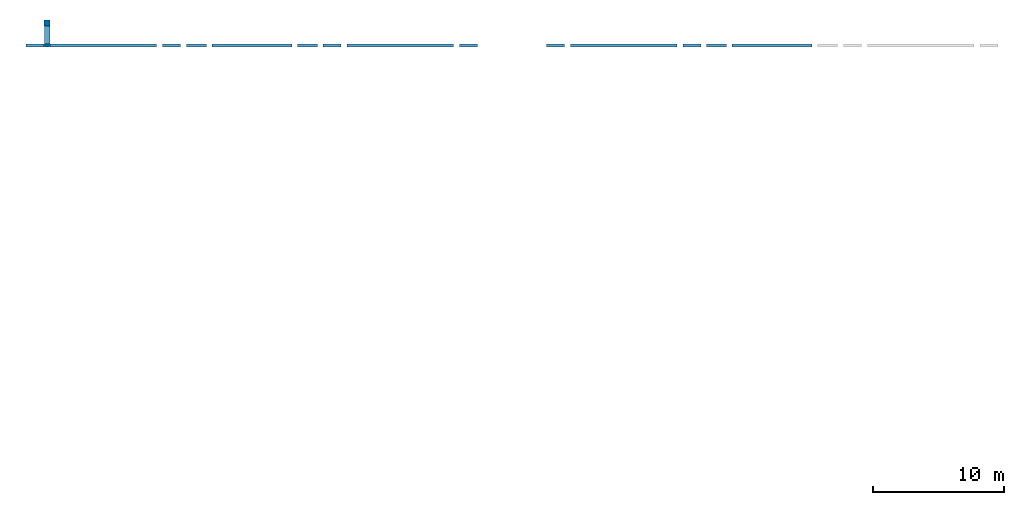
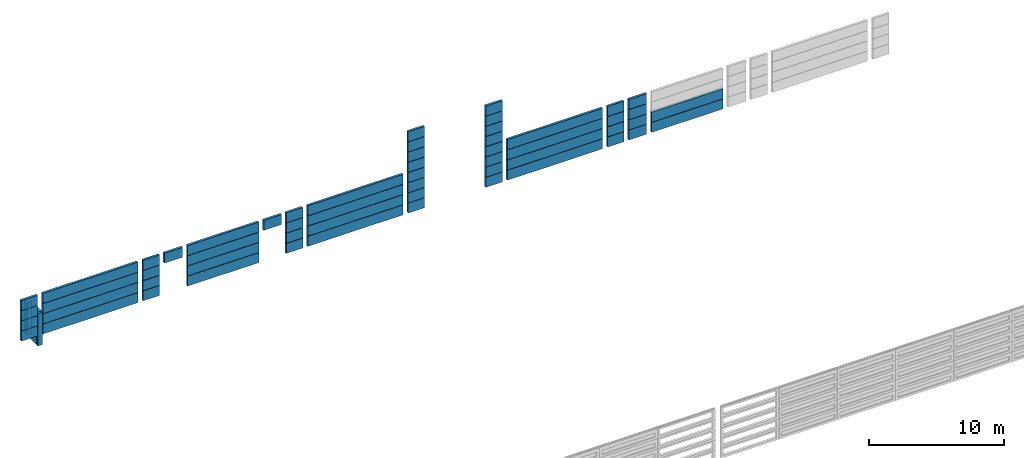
# One storey, part 1 of 3: 57 beams, 2 columns.
"""IFC2X3 building model written with IfcOpenShell, lengths in millimetres."""

from ifc_helpers import new_model, entity, si_unit, converted_unit, derived_unit, direction, frame, frame_2d, origin, origin_2d_with_axis, place, context, subcontext, project, spatial, polyline, rectangle, outline, extrude, source, transform, mapped, material, type_object, type_shapes, element, save


model = new_model("IFC2X3")

# Units and contexts
model_context = context("Model", 3, precision=0.01, world=origin(), true_north=direction((6.12303176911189e-17, 1.0)))
body_context = subcontext(model_context, "Body", "Model", "MODEL_VIEW")
ifc_project = project(units=[si_unit("LENGTHUNIT", "METRE", prefix="MILLI"), si_unit("AREAUNIT", "SQUARE_METRE"), si_unit("VOLUMEUNIT", "CUBIC_METRE"), converted_unit("PLANEANGLEUNIT", "DEGREE", entity("IfcRatioMeasure", 0.0174532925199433), si_unit("PLANEANGLEUNIT", "RADIAN"), dimensions=[0, 0, 0, 0, 0, 0, 0]), si_unit("MASSUNIT", "GRAM", prefix="KILO"), derived_unit("MASSDENSITYUNIT", [(si_unit("MASSUNIT", "GRAM", prefix="KILO"), 1), (si_unit("LENGTHUNIT", "METRE"), -3)]), derived_unit("MOMENTOFINERTIAUNIT", [(si_unit("LENGTHUNIT", "METRE"), 4)]), si_unit("TIMEUNIT", "SECOND"), si_unit("FREQUENCYUNIT", "HERTZ"), si_unit("THERMODYNAMICTEMPERATUREUNIT", "DEGREE_CELSIUS"), derived_unit("THERMALTRANSMITTANCEUNIT", [(si_unit("MASSUNIT", "GRAM", prefix="KILO"), 1), (si_unit("THERMODYNAMICTEMPERATUREUNIT", "KELVIN"), -1), (si_unit("TIMEUNIT", "SECOND"), -3)]), derived_unit("VOLUMETRICFLOWRATEUNIT", [(si_unit("LENGTHUNIT", "METRE"), 3), (si_unit("TIMEUNIT", "SECOND"), -1)]), si_unit("ELECTRICCURRENTUNIT", "AMPERE"), si_unit("ELECTRICVOLTAGEUNIT", "VOLT"), si_unit("POWERUNIT", "WATT"), si_unit("FORCEUNIT", "NEWTON", prefix="KILO"), si_unit("ILLUMINANCEUNIT", "LUX"), si_unit("LUMINOUSFLUXUNIT", "LUMEN"), si_unit("LUMINOUSINTENSITYUNIT", "CANDELA"), derived_unit("USERDEFINED", [(si_unit("MASSUNIT", "GRAM", prefix="KILO"), -1), (si_unit("LENGTHUNIT", "METRE"), -2), (si_unit("TIMEUNIT", "SECOND"), 3), (si_unit("LUMINOUSFLUXUNIT", "LUMEN"), 1)]), derived_unit("LINEARVELOCITYUNIT", [(si_unit("LENGTHUNIT", "METRE"), 1), (si_unit("TIMEUNIT", "SECOND"), -1)]), si_unit("PRESSUREUNIT", "PASCAL"), derived_unit("USERDEFINED", [(si_unit("LENGTHUNIT", "METRE"), -2), (si_unit("MASSUNIT", "GRAM", prefix="KILO"), 1), (si_unit("TIMEUNIT", "SECOND"), -2)]), derived_unit("LINEARFORCEUNIT", [(si_unit("MASSUNIT", "GRAM", prefix="KILO"), 1), (si_unit("LENGTHUNIT", "METRE"), 1), (si_unit("TIMEUNIT", "SECOND"), -2), (si_unit("LENGTHUNIT", "METRE"), -1)]), derived_unit("PLANARFORCEUNIT", [(si_unit("MASSUNIT", "GRAM", prefix="KILO"), 1), (si_unit("LENGTHUNIT", "METRE"), 1), (si_unit("TIMEUNIT", "SECOND"), -2), (si_unit("LENGTHUNIT", "METRE"), -2)])], contexts=[model_context])

# Site, building, storey
site_placement = place(None, frame((10627.5135316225, 21939.0796949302, 0.0)))
site = spatial("IfcSite", under=ifc_project, at=site_placement, Name="Default", CompositionType="ELEMENT")
building_placement = place(site_placement, origin())
building = spatial("IfcBuilding", under=site, at=building_placement, CompositionType="ELEMENT")
storey_placement = place(building_placement, frame((0.0, 0.0, 3660.0)))
storey = spatial("IfcBuildingStorey", under=building, at=storey_placement, Name="R+1", CompositionType="ELEMENT", Elevation=3660.0)

# Columns
ifc_material_1 = material(Name="Concrete - Precast Concrete - 35 MPa")
column_type_1 = type_object("IfcColumnType", Name="M_Precast-Rectangular Column:430X200", PredefinedType="COLUMN", material=ifc_material_1)
shared_shape_1 = source(origin(), body_context, "Body", "SweptSolid", [
    extrude(outline(polyline([(-75.0, -215.0), (75.0, -215.0), (100.0, -190.0), (100.0, 190.0), (75.0, 215.0), (-75.0, 215.0), (-100.0, 190.0), (-100.0, -190.0), (-75.0, -215.0)])), frame((0.0, 0.0, 2910.0), z_axis=(0.0, 0.0, 1.0), x_axis=(0.0, -1.0, 0.0)), (0.0, 0.0, 1.0), 2910.0),
])
type_shapes(column_type_1, [shared_shape_1])
column_1_placement = place(storey_placement, frame((-8797.51353162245, 16595.9203050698, -3660.0), z_axis=(0.0, 0.0, 1.0), x_axis=(-1.0, 0.0, 0.0)))
element("IfcColumn", 1, at=column_1_placement, inside=storey, type_object=column_type_1, material=ifc_material_1, Name="M_Precast-Rectangular Column:430X200", ObjectType="M_Precast-Rectangular Column:430X200", context=body_context, shape_type="MappedRepresentation", body=[
    mapped(shared_shape_1, transform((0.0, 0.0, 0.0), scale=1.0)),
])
ifc_material_2 = material(Name="Concrete, Precast Smooth, Light Grey")
column_type_2 = type_object("IfcColumnType", Name="M_Precast-Square Column:430x430", PredefinedType="COLUMN", material=ifc_material_2)
shared_shape_2 = source(origin(), body_context, "Body", "SweptSolid", [
    extrude(rectangle(XDim=430.0, YDim=430.0, at=origin_2d_with_axis()), frame((0.0, 0.0, 2910.0), z_axis=(0.0, 0.0, 1.0), x_axis=(0.0, -1.0, 0.0)), (0.0, 0.0, 1.0), 2910.0),
])
type_shapes(column_type_2, [shared_shape_2])
column_2_placement = place(storey_placement, frame((-8797.51353162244, 18310.9203050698, -3660.0), z_axis=(0.0, 0.0, 1.0), x_axis=(-1.0, 0.0, 0.0)))
element("IfcColumn", 2, at=column_2_placement, inside=storey, type_object=column_type_2, material=ifc_material_2, Name="M_Precast-Square Column:430x430", ObjectType="M_Precast-Square Column:430x430", context=body_context, shape_type="MappedRepresentation", body=[
    mapped(shared_shape_2, transform((0.0, 0.0, 0.0), scale=1.0)),
])

# Beams
beam_type_1 = type_object("IfcBeamType", Name="NBS_AndertonConcreteProductsLtd_PrcstConcPnls_BallastBoard300:PPT TYPE4", PredefinedType="NOTDEFINED")
beam_1_placement = place(storey_placement, origin())
element("IfcBeam", 3, at=beam_1_placement, inside=storey, type_object=beam_type_1, material=ifc_material_2, Name="NBS_AndertonConcreteProductsLtd_PrcstConcPnls_BallastBoard300:PPT TYPE4", ObjectType="NBS_AndertonConcreteProductsLtd_PrcstConcPnls_BallastBoard300:PPT TYPE4", context=body_context, shape_type="SweptSolid", body=[
    extrude(rectangle(XDim=898.300000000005, YDim=200.0, at=frame_2d((1.08713038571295e-12, 5.40012479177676e-13), x_axis=(0.0, 1.0))), frame((-8582.51353162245, 16595.9203050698, 635.750000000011), z_axis=(1.0, 0.0, 0.0), x_axis=(0.0, 1.0, 0.0)), (0.0, 0.0, 1.0), 8120.0),
])
beam_2_placement = place(storey_placement, origin())
element("IfcBeam", 4, at=beam_2_placement, inside=storey, type_object=beam_type_1, material=ifc_material_2, Name="NBS_AndertonConcreteProductsLtd_PrcstConcPnls_BallastBoard300:PPT TYPE4", ObjectType="NBS_AndertonConcreteProductsLtd_PrcstConcPnls_BallastBoard300:PPT TYPE4", context=body_context, shape_type="SweptSolid", body=[
    extrude(rectangle(XDim=898.300000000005, YDim=200.0, at=frame_2d((-1.08713038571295e-12, -5.40012479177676e-13), x_axis=(0.0, 1.0))), frame((-8582.51353162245, 16595.9203050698, 1554.05000000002), z_axis=(1.0, 0.0, 0.0), x_axis=(0.0, 1.0, 0.0)), (0.0, 0.0, 1.0), 8120.0),
])
beam_3_placement = place(storey_placement, origin())
element("IfcBeam", 5, at=beam_3_placement, inside=storey, type_object=beam_type_1, material=ifc_material_2, Name="NBS_AndertonConcreteProductsLtd_PrcstConcPnls_BallastBoard300:PPT TYPE4", ObjectType="NBS_AndertonConcreteProductsLtd_PrcstConcPnls_BallastBoard300:PPT TYPE4", context=body_context, shape_type="SweptSolid", body=[
    extrude(rectangle(XDim=898.300000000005, YDim=200.0, at=frame_2d((1.08713038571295e-12, -5.40012479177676e-13), x_axis=(0.0, 1.0))), frame((-8582.51353162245, 16595.9203050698, 2472.35000000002), z_axis=(1.0, 0.0, 0.0), x_axis=(0.0, 1.0, 0.0)), (0.0, 0.0, 1.0), 8120.0),
])
beam_4_placement = place(storey_placement, origin())
element("IfcBeam", 6, at=beam_4_placement, inside=storey, type_object=beam_type_1, material=ifc_material_2, Name="NBS_AndertonConcreteProductsLtd_PrcstConcPnls_BallastBoard300:PPT TYPE4", ObjectType="NBS_AndertonConcreteProductsLtd_PrcstConcPnls_BallastBoard300:PPT TYPE4", context=body_context, shape_type="SweptSolid", body=[
    extrude(rectangle(XDim=898.300000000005, YDim=200.0, at=frame_2d((-1.08713038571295e-12, -5.40012479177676e-13), x_axis=(0.0, 1.0))), frame((-8582.51353162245, 16595.9203050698, 3390.65000000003), z_axis=(1.0, 0.0, 0.0), x_axis=(0.0, 1.0, 0.0)), (0.0, 0.0, 1.0), 8120.0),
])
beam_5_placement = place(storey_placement, origin())
element("IfcBeam", 7, at=beam_5_placement, inside=storey, type_object=beam_type_1, material=ifc_material_2, Name="NBS_AndertonConcreteProductsLtd_PrcstConcPnls_BallastBoard300:PPT TYPE4", ObjectType="NBS_AndertonConcreteProductsLtd_PrcstConcPnls_BallastBoard300:PPT TYPE4", context=body_context, shape_type="SweptSolid", body=[
    extrude(rectangle(XDim=898.300000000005, YDim=200.0, at=frame_2d((1.08713038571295e-12, 5.40012479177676e-13), x_axis=(0.0, 1.0))), frame((14015.4864683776, 16595.9203050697, 635.750000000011), z_axis=(1.0, 0.0, 0.0), x_axis=(0.0, 1.0, 0.0)), (0.0, 0.0, 1.0), 8120.0),
])
beam_6_placement = place(storey_placement, origin())
element("IfcBeam", 8, at=beam_6_placement, inside=storey, type_object=beam_type_1, material=ifc_material_2, Name="NBS_AndertonConcreteProductsLtd_PrcstConcPnls_BallastBoard300:PPT TYPE4", ObjectType="NBS_AndertonConcreteProductsLtd_PrcstConcPnls_BallastBoard300:PPT TYPE4", context=body_context, shape_type="SweptSolid", body=[
    extrude(rectangle(XDim=898.300000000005, YDim=200.0, at=frame_2d((-1.08713038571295e-12, -5.40012479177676e-13), x_axis=(0.0, 1.0))), frame((14015.4864683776, 16595.9203050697, 1554.05000000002), z_axis=(1.0, 0.0, 0.0), x_axis=(0.0, 1.0, 0.0)), (0.0, 0.0, 1.0), 8120.0),
])
beam_7_placement = place(storey_placement, origin())
element("IfcBeam", 9, at=beam_7_placement, inside=storey, type_object=beam_type_1, material=ifc_material_2, Name="NBS_AndertonConcreteProductsLtd_PrcstConcPnls_BallastBoard300:PPT TYPE4", ObjectType="NBS_AndertonConcreteProductsLtd_PrcstConcPnls_BallastBoard300:PPT TYPE4", context=body_context, shape_type="SweptSolid", body=[
    extrude(rectangle(XDim=898.300000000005, YDim=200.0, at=frame_2d((1.08713038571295e-12, -5.40012479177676e-13), x_axis=(0.0, 1.0))), frame((14015.4864683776, 16595.9203050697, 2472.35000000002), z_axis=(1.0, 0.0, 0.0), x_axis=(0.0, 1.0, 0.0)), (0.0, 0.0, 1.0), 8120.0),
])
beam_8_placement = place(storey_placement, origin())
element("IfcBeam", 10, at=beam_8_placement, inside=storey, type_object=beam_type_1, material=ifc_material_2, Name="NBS_AndertonConcreteProductsLtd_PrcstConcPnls_BallastBoard300:PPT TYPE4", ObjectType="NBS_AndertonConcreteProductsLtd_PrcstConcPnls_BallastBoard300:PPT TYPE4", context=body_context, shape_type="SweptSolid", body=[
    extrude(rectangle(XDim=898.300000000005, YDim=200.0, at=frame_2d((1.08713038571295e-12, -5.40012479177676e-13), x_axis=(0.0, 1.0))), frame((14015.4864683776, 16595.9203050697, 3390.65000000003), z_axis=(1.0, 0.0, 0.0), x_axis=(0.0, 1.0, 0.0)), (0.0, 0.0, 1.0), 8120.0),
])
beam_9_placement = place(storey_placement, origin())
element("IfcBeam", 11, at=beam_9_placement, inside=storey, type_object=beam_type_1, material=ifc_material_2, Name="NBS_AndertonConcreteProductsLtd_PrcstConcPnls_BallastBoard300:PPT TYPE4", ObjectType="NBS_AndertonConcreteProductsLtd_PrcstConcPnls_BallastBoard300:PPT TYPE4", context=body_context, shape_type="SweptSolid", body=[
    extrude(rectangle(XDim=898.300000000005, YDim=200.0, at=frame_2d((2.8421709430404e-13, 1.08713038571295e-12), x_axis=(1.0, 0.0))), frame((31019.4864683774, 16595.9203050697, 635.750000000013), z_axis=(1.0, 0.0, 0.0), x_axis=(0.0, 0.0, -1.0)), (0.0, 0.0, 1.0), 8120.0),
])
beam_10_placement = place(storey_placement, origin())
element("IfcBeam", 12, at=beam_10_placement, inside=storey, type_object=beam_type_1, material=ifc_material_2, Name="NBS_AndertonConcreteProductsLtd_PrcstConcPnls_BallastBoard300:PPT TYPE4", ObjectType="NBS_AndertonConcreteProductsLtd_PrcstConcPnls_BallastBoard300:PPT TYPE4", context=body_context, shape_type="SweptSolid", body=[
    extrude(rectangle(XDim=898.300000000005, YDim=200.0, at=frame_2d((5.40012479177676e-13, 1.08713038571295e-12), x_axis=(1.0, 0.0))), frame((31019.4864683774, 16595.9203050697, 1554.05000000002), z_axis=(1.0, 0.0, 0.0), x_axis=(0.0, 0.0, -1.0)), (0.0, 0.0, 1.0), 8120.0),
])
beam_11_placement = place(storey_placement, origin())
element("IfcBeam", 13, at=beam_11_placement, inside=storey, type_object=beam_type_1, material=ifc_material_2, Name="NBS_AndertonConcreteProductsLtd_PrcstConcPnls_BallastBoard300:PPT TYPE4", ObjectType="NBS_AndertonConcreteProductsLtd_PrcstConcPnls_BallastBoard300:PPT TYPE4", context=body_context, shape_type="SweptSolid", body=[
    extrude(rectangle(XDim=898.300000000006, YDim=200.0, at=frame_2d((0.0, -1.08713038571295e-12), x_axis=(1.0, 0.0))), frame((31019.4864683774, 16595.9203050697, 2472.35000000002), z_axis=(1.0, 0.0, 0.0), x_axis=(0.0, 0.0, -1.0)), (0.0, 0.0, 1.0), 8120.0),
])
beam_12_placement = place(storey_placement, origin())
element("IfcBeam", 14, at=beam_12_placement, inside=storey, type_object=beam_type_1, material=ifc_material_2, Name="NBS_AndertonConcreteProductsLtd_PrcstConcPnls_BallastBoard300:PPT TYPE4", ObjectType="NBS_AndertonConcreteProductsLtd_PrcstConcPnls_BallastBoard300:PPT TYPE4", context=body_context, shape_type="SweptSolid", body=[
    extrude(rectangle(XDim=898.300000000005, YDim=200.0, at=frame_2d((5.40012479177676e-13, -1.08713038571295e-12), x_axis=(1.0, 0.0))), frame((31019.4864683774, 16595.9203050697, 3390.65000000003), z_axis=(1.0, 0.0, 0.0), x_axis=(0.0, 0.0, -1.0)), (0.0, 0.0, 1.0), 8120.0),
])
beam_type_2 = type_object("IfcBeamType", Name="NBS_AndertonConcreteProductsLtd_PrcstConcPnls_BallastBoard300:PPT TYPE5", PredefinedType="NOTDEFINED")
beam_13_placement = place(storey_placement, origin())
element("IfcBeam", 15, at=beam_13_placement, inside=storey, type_object=beam_type_2, material=ifc_material_2, Name="NBS_AndertonConcreteProductsLtd_PrcstConcPnls_BallastBoard300:PPT TYPE5", ObjectType="NBS_AndertonConcreteProductsLtd_PrcstConcPnls_BallastBoard300:PPT TYPE5", context=body_context, shape_type="SweptSolid", body=[
    extrude(rectangle(XDim=898.300000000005, YDim=200.0, at=frame_2d((1.08713038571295e-12, -5.40012479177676e-13), x_axis=(0.0, 1.0))), frame((1799.48646837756, 16595.9203050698, 3390.65000000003), z_axis=(1.0, 0.0, 0.0), x_axis=(0.0, 1.0, 0.0)), (0.0, 0.0, 1.0), 1525.0),
])
beam_14_placement = place(storey_placement, origin())
element("IfcBeam", 16, at=beam_14_placement, inside=storey, type_object=beam_type_2, material=ifc_material_2, Name="NBS_AndertonConcreteProductsLtd_PrcstConcPnls_BallastBoard300:PPT TYPE5", ObjectType="NBS_AndertonConcreteProductsLtd_PrcstConcPnls_BallastBoard300:PPT TYPE5", context=body_context, shape_type="SweptSolid", body=[
    extrude(rectangle(XDim=898.300000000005, YDim=200.0, at=frame_2d((-1.08713038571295e-12, -5.40012479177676e-13), x_axis=(0.0, 1.0))), frame((10258.6417434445, 16595.9203050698, 3390.65000000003), z_axis=(1.0, 0.0, 0.0), x_axis=(0.0, 1.0, 0.0)), (0.0, 0.0, 1.0), 1525.0),
])
beam_15_placement = place(storey_placement, origin())
element("IfcBeam", 17, at=beam_15_placement, inside=storey, type_object=beam_type_2, material=ifc_material_2, Name="NBS_AndertonConcreteProductsLtd_PrcstConcPnls_BallastBoard300:PPT TYPE5", ObjectType="NBS_AndertonConcreteProductsLtd_PrcstConcPnls_BallastBoard300:PPT TYPE5", context=body_context, shape_type="SweptSolid", body=[
    extrude(rectangle(XDim=898.300000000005, YDim=200.0, at=frame_2d((2.8421709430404e-13, -1.08713038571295e-12), x_axis=(1.0, 0.0))), frame((41371.3311933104, 16595.9203050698, 635.750000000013), z_axis=(1.0, 0.0, 0.0), x_axis=(0.0, 0.0, -1.0)), (0.0, 0.0, 1.0), 1525.0),
])
beam_16_placement = place(storey_placement, origin())
element("IfcBeam", 18, at=beam_16_placement, inside=storey, type_object=beam_type_2, material=ifc_material_2, Name="NBS_AndertonConcreteProductsLtd_PrcstConcPnls_BallastBoard300:PPT TYPE5", ObjectType="NBS_AndertonConcreteProductsLtd_PrcstConcPnls_BallastBoard300:PPT TYPE5", context=body_context, shape_type="SweptSolid", body=[
    extrude(rectangle(XDim=898.300000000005, YDim=200.0, at=frame_2d((5.40012479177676e-13, -1.08713038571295e-12), x_axis=(1.0, 0.0))), frame((41371.3311933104, 16595.9203050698, 1554.05000000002), z_axis=(1.0, 0.0, 0.0), x_axis=(0.0, 0.0, -1.0)), (0.0, 0.0, 1.0), 1525.0),
])
beam_17_placement = place(storey_placement, origin())
element("IfcBeam", 19, at=beam_17_placement, inside=storey, type_object=beam_type_2, material=ifc_material_2, Name="NBS_AndertonConcreteProductsLtd_PrcstConcPnls_BallastBoard300:PPT TYPE5", ObjectType="NBS_AndertonConcreteProductsLtd_PrcstConcPnls_BallastBoard300:PPT TYPE5", context=body_context, shape_type="SweptSolid", body=[
    extrude(rectangle(XDim=898.300000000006, YDim=200.0, at=frame_2d((0.0, 1.08713038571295e-12), x_axis=(1.0, 0.0))), frame((41371.3311933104, 16595.9203050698, 2472.35000000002), z_axis=(1.0, 0.0, 0.0), x_axis=(0.0, 0.0, -1.0)), (0.0, 0.0, 1.0), 1525.0),
])
beam_18_placement = place(storey_placement, origin())
element("IfcBeam", 20, at=beam_18_placement, inside=storey, type_object=beam_type_2, material=ifc_material_2, Name="NBS_AndertonConcreteProductsLtd_PrcstConcPnls_BallastBoard300:PPT TYPE5", ObjectType="NBS_AndertonConcreteProductsLtd_PrcstConcPnls_BallastBoard300:PPT TYPE5", context=body_context, shape_type="SweptSolid", body=[
    extrude(rectangle(XDim=898.300000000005, YDim=200.0, at=frame_2d((5.40012479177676e-13, -1.08713038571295e-12), x_axis=(1.0, 0.0))), frame((41371.3311933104, 16595.9203050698, 3390.65000000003), z_axis=(1.0, 0.0, 0.0), x_axis=(0.0, 0.0, -1.0)), (0.0, 0.0, 1.0), 1525.0),
])
beam_type_3 = type_object("IfcBeamType", Name="NBS_AndertonConcreteProductsLtd_PrcstConcPnls_BallastBoard300:PPT TYPE6", PredefinedType="NOTDEFINED")
beam_19_placement = place(storey_placement, origin())
element("IfcBeam", 21, at=beam_19_placement, inside=storey, type_object=beam_type_3, material=ifc_material_2, Name="NBS_AndertonConcreteProductsLtd_PrcstConcPnls_BallastBoard300:PPT TYPE6", ObjectType="NBS_AndertonConcreteProductsLtd_PrcstConcPnls_BallastBoard300:PPT TYPE6", context=body_context, shape_type="SweptSolid", body=[
    extrude(rectangle(XDim=898.300000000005, YDim=200.0, at=frame_2d((1.08713038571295e-12, 5.40012479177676e-13), x_axis=(0.0, 1.0))), frame((3764.48646837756, 16595.9203050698, 635.750000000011), z_axis=(1.0, 0.0, 0.0), x_axis=(0.0, 1.0, 0.0)), (0.0, 0.0, 1.0), 6066.3),
])
beam_20_placement = place(storey_placement, origin())
element("IfcBeam", 22, at=beam_20_placement, inside=storey, type_object=beam_type_3, material=ifc_material_2, Name="NBS_AndertonConcreteProductsLtd_PrcstConcPnls_BallastBoard300:PPT TYPE6", ObjectType="NBS_AndertonConcreteProductsLtd_PrcstConcPnls_BallastBoard300:PPT TYPE6", context=body_context, shape_type="SweptSolid", body=[
    extrude(rectangle(XDim=898.300000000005, YDim=200.0, at=frame_2d((-1.08713038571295e-12, -5.40012479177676e-13), x_axis=(0.0, 1.0))), frame((3764.48646837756, 16595.9203050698, 1554.05000000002), z_axis=(1.0, 0.0, 0.0), x_axis=(0.0, 1.0, 0.0)), (0.0, 0.0, 1.0), 6066.3),
])
beam_21_placement = place(storey_placement, origin())
element("IfcBeam", 23, at=beam_21_placement, inside=storey, type_object=beam_type_3, material=ifc_material_2, Name="NBS_AndertonConcreteProductsLtd_PrcstConcPnls_BallastBoard300:PPT TYPE6", ObjectType="NBS_AndertonConcreteProductsLtd_PrcstConcPnls_BallastBoard300:PPT TYPE6", context=body_context, shape_type="SweptSolid", body=[
    extrude(rectangle(XDim=898.300000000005, YDim=200.0, at=frame_2d((1.08713038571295e-12, -5.40012479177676e-13), x_axis=(0.0, 1.0))), frame((3764.48646837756, 16595.9203050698, 2472.35000000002), z_axis=(1.0, 0.0, 0.0), x_axis=(0.0, 1.0, 0.0)), (0.0, 0.0, 1.0), 6066.3),
])
beam_22_placement = place(storey_placement, origin())
element("IfcBeam", 24, at=beam_22_placement, inside=storey, type_object=beam_type_3, material=ifc_material_2, Name="NBS_AndertonConcreteProductsLtd_PrcstConcPnls_BallastBoard300:PPT TYPE6", ObjectType="NBS_AndertonConcreteProductsLtd_PrcstConcPnls_BallastBoard300:PPT TYPE6", context=body_context, shape_type="SweptSolid", body=[
    extrude(rectangle(XDim=898.300000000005, YDim=200.0, at=frame_2d((1.08713038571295e-12, -5.40012479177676e-13), x_axis=(0.0, 1.0))), frame((3764.48646837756, 16595.9203050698, 3390.65000000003), z_axis=(1.0, 0.0, 0.0), x_axis=(0.0, 1.0, 0.0)), (0.0, 0.0, 1.0), 6066.3),
])
beam_23_placement = place(storey_placement, origin())
element("IfcBeam", 25, at=beam_23_placement, inside=storey, type_object=beam_type_3, material=ifc_material_2, Name="NBS_AndertonConcreteProductsLtd_PrcstConcPnls_BallastBoard300:PPT TYPE6", ObjectType="NBS_AndertonConcreteProductsLtd_PrcstConcPnls_BallastBoard300:PPT TYPE6", context=body_context, shape_type="SweptSolid", body=[
    extrude(rectangle(XDim=898.300000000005, YDim=200.0, at=frame_2d((2.8421709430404e-13, 1.08713038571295e-12), x_axis=(1.0, 0.0))), frame((43324.1864683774, 16595.9203050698, 635.750000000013), z_axis=(1.0, 0.0, 0.0), x_axis=(0.0, 0.0, -1.0)), (0.0, 0.0, 1.0), 6066.3),
])
beam_24_placement = place(storey_placement, origin())
element("IfcBeam", 26, at=beam_24_placement, inside=storey, type_object=beam_type_3, material=ifc_material_2, Name="NBS_AndertonConcreteProductsLtd_PrcstConcPnls_BallastBoard300:PPT TYPE6", ObjectType="NBS_AndertonConcreteProductsLtd_PrcstConcPnls_BallastBoard300:PPT TYPE6", context=body_context, shape_type="SweptSolid", body=[
    extrude(rectangle(XDim=898.300000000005, YDim=200.0, at=frame_2d((5.40012479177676e-13, 1.08713038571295e-12), x_axis=(1.0, 0.0))), frame((43324.1864683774, 16595.9203050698, 1554.05000000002), z_axis=(1.0, 0.0, 0.0), x_axis=(0.0, 0.0, -1.0)), (0.0, 0.0, 1.0), 6066.3),
])
beam_type_4 = type_object("IfcBeamType", Name="NBS_AndertonConcreteProductsLtd_PrcstConcPnls_BallastBoard300:PPT TYPE7", PredefinedType="NOTDEFINED")
beam_25_placement = place(storey_placement, origin())
element("IfcBeam", 27, at=beam_25_placement, inside=storey, type_object=beam_type_4, material=ifc_material_2, Name="NBS_AndertonConcreteProductsLtd_PrcstConcPnls_BallastBoard300:PPT TYPE7", ObjectType="NBS_AndertonConcreteProductsLtd_PrcstConcPnls_BallastBoard300:PPT TYPE7", context=body_context, shape_type="SweptSolid", body=[
    extrude(rectangle(XDim=898.300000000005, YDim=200.0, at=frame_2d((-1.08713038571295e-12, 5.40012479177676e-13), x_axis=(0.0, 1.0))), frame((12183.4864683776, 16595.9203050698, 635.750000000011), z_axis=(1.0, 0.0, 0.0), x_axis=(0.0, 1.0, 0.0)), (0.0, 0.0, 1.0), 1395.0),
])
beam_26_placement = place(storey_placement, origin())
element("IfcBeam", 28, at=beam_26_placement, inside=storey, type_object=beam_type_4, material=ifc_material_2, Name="NBS_AndertonConcreteProductsLtd_PrcstConcPnls_BallastBoard300:PPT TYPE7", ObjectType="NBS_AndertonConcreteProductsLtd_PrcstConcPnls_BallastBoard300:PPT TYPE7", context=body_context, shape_type="SweptSolid", body=[
    extrude(rectangle(XDim=898.300000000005, YDim=200.0, at=frame_2d((1.08713038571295e-12, -5.40012479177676e-13), x_axis=(0.0, 1.0))), frame((12183.4864683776, 16595.9203050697, 1554.05000000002), z_axis=(1.0, 0.0, 0.0), x_axis=(0.0, 1.0, 0.0)), (0.0, 0.0, 1.0), 1395.0),
])
beam_27_placement = place(storey_placement, origin())
element("IfcBeam", 29, at=beam_27_placement, inside=storey, type_object=beam_type_4, material=ifc_material_2, Name="NBS_AndertonConcreteProductsLtd_PrcstConcPnls_BallastBoard300:PPT TYPE7", ObjectType="NBS_AndertonConcreteProductsLtd_PrcstConcPnls_BallastBoard300:PPT TYPE7", context=body_context, shape_type="SweptSolid", body=[
    extrude(rectangle(XDim=898.300000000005, YDim=200.0, at=frame_2d((-1.08713038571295e-12, -5.40012479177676e-13), x_axis=(0.0, 1.0))), frame((12183.4864683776, 16595.9203050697, 2472.35000000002), z_axis=(1.0, 0.0, 0.0), x_axis=(0.0, 1.0, 0.0)), (0.0, 0.0, 1.0), 1395.0),
])
beam_28_placement = place(storey_placement, origin())
element("IfcBeam", 30, at=beam_28_placement, inside=storey, type_object=beam_type_4, material=ifc_material_2, Name="NBS_AndertonConcreteProductsLtd_PrcstConcPnls_BallastBoard300:PPT TYPE7", ObjectType="NBS_AndertonConcreteProductsLtd_PrcstConcPnls_BallastBoard300:PPT TYPE7", context=body_context, shape_type="SweptSolid", body=[
    extrude(rectangle(XDim=898.300000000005, YDim=200.0, at=frame_2d((1.08713038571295e-12, -5.40012479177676e-13), x_axis=(0.0, 1.0))), frame((12183.4864683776, 16595.9203050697, 3390.65000000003), z_axis=(1.0, 0.0, 0.0), x_axis=(0.0, 1.0, 0.0)), (0.0, 0.0, 1.0), 1395.0),
])
beam_29_placement = place(storey_placement, origin())
element("IfcBeam", 31, at=beam_29_placement, inside=storey, type_object=beam_type_4, material=ifc_material_2, Name="NBS_AndertonConcreteProductsLtd_PrcstConcPnls_BallastBoard300:PPT TYPE7", ObjectType="NBS_AndertonConcreteProductsLtd_PrcstConcPnls_BallastBoard300:PPT TYPE7", context=body_context, shape_type="SweptSolid", body=[
    extrude(rectangle(XDim=898.300000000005, YDim=200.0, at=frame_2d((1.08713038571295e-12, 5.40012479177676e-13), x_axis=(0.0, 1.0))), frame((-24.5135316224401, 16595.9203050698, 635.750000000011), z_axis=(1.0, 0.0, 0.0), x_axis=(0.0, 1.0, 0.0)), (0.0, 0.0, 1.0), 1395.0),
])
beam_30_placement = place(storey_placement, origin())
element("IfcBeam", 32, at=beam_30_placement, inside=storey, type_object=beam_type_4, material=ifc_material_2, Name="NBS_AndertonConcreteProductsLtd_PrcstConcPnls_BallastBoard300:PPT TYPE7", ObjectType="NBS_AndertonConcreteProductsLtd_PrcstConcPnls_BallastBoard300:PPT TYPE7", context=body_context, shape_type="SweptSolid", body=[
    extrude(rectangle(XDim=898.300000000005, YDim=200.0, at=frame_2d((1.08713038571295e-12, -5.40012479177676e-13), x_axis=(0.0, 1.0))), frame((-24.5135316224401, 16595.9203050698, 1554.05000000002), z_axis=(1.0, 0.0, 0.0), x_axis=(0.0, 1.0, 0.0)), (0.0, 0.0, 1.0), 1395.0),
])
beam_31_placement = place(storey_placement, origin())
element("IfcBeam", 33, at=beam_31_placement, inside=storey, type_object=beam_type_4, material=ifc_material_2, Name="NBS_AndertonConcreteProductsLtd_PrcstConcPnls_BallastBoard300:PPT TYPE7", ObjectType="NBS_AndertonConcreteProductsLtd_PrcstConcPnls_BallastBoard300:PPT TYPE7", context=body_context, shape_type="SweptSolid", body=[
    extrude(rectangle(XDim=898.300000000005, YDim=200.0, at=frame_2d((1.08713038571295e-12, -5.40012479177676e-13), x_axis=(0.0, 1.0))), frame((-24.5135316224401, 16595.9203050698, 2472.35000000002), z_axis=(1.0, 0.0, 0.0), x_axis=(0.0, 1.0, 0.0)), (0.0, 0.0, 1.0), 1395.0),
])
beam_32_placement = place(storey_placement, origin())
element("IfcBeam", 34, at=beam_32_placement, inside=storey, type_object=beam_type_4, material=ifc_material_2, Name="NBS_AndertonConcreteProductsLtd_PrcstConcPnls_BallastBoard300:PPT TYPE7", ObjectType="NBS_AndertonConcreteProductsLtd_PrcstConcPnls_BallastBoard300:PPT TYPE7", context=body_context, shape_type="SweptSolid", body=[
    extrude(rectangle(XDim=898.300000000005, YDim=200.0, at=frame_2d((-1.08713038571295e-12, -5.40012479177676e-13), x_axis=(0.0, 1.0))), frame((-24.5135316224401, 16595.9203050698, 3390.65000000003), z_axis=(1.0, 0.0, 0.0), x_axis=(0.0, 1.0, 0.0)), (0.0, 0.0, 1.0), 1395.0),
])
beam_33_placement = place(storey_placement, origin())
element("IfcBeam", 35, at=beam_33_placement, inside=storey, type_object=beam_type_4, material=ifc_material_2, Name="NBS_AndertonConcreteProductsLtd_PrcstConcPnls_BallastBoard300:PPT TYPE7", ObjectType="NBS_AndertonConcreteProductsLtd_PrcstConcPnls_BallastBoard300:PPT TYPE7", context=body_context, shape_type="SweptSolid", body=[
    extrude(rectangle(XDim=898.300000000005, YDim=200.0, at=frame_2d((-1.08713038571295e-12, 5.40012479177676e-13), x_axis=(0.0, 1.0))), frame((22567.4864683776, 16595.9203050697, 635.750000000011), z_axis=(1.0, 0.0, 0.0), x_axis=(0.0, 1.0, 0.0)), (0.0, 0.0, 1.0), 1395.0),
])
beam_34_placement = place(storey_placement, origin())
element("IfcBeam", 36, at=beam_34_placement, inside=storey, type_object=beam_type_4, material=ifc_material_2, Name="NBS_AndertonConcreteProductsLtd_PrcstConcPnls_BallastBoard300:PPT TYPE7", ObjectType="NBS_AndertonConcreteProductsLtd_PrcstConcPnls_BallastBoard300:PPT TYPE7", context=body_context, shape_type="SweptSolid", body=[
    extrude(rectangle(XDim=898.300000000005, YDim=200.0, at=frame_2d((1.08713038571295e-12, -5.40012479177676e-13), x_axis=(0.0, 1.0))), frame((22567.4864683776, 16595.9203050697, 1554.05000000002), z_axis=(1.0, 0.0, 0.0), x_axis=(0.0, 1.0, 0.0)), (0.0, 0.0, 1.0), 1395.0),
])
beam_35_placement = place(storey_placement, origin())
element("IfcBeam", 37, at=beam_35_placement, inside=storey, type_object=beam_type_4, material=ifc_material_2, Name="NBS_AndertonConcreteProductsLtd_PrcstConcPnls_BallastBoard300:PPT TYPE7", ObjectType="NBS_AndertonConcreteProductsLtd_PrcstConcPnls_BallastBoard300:PPT TYPE7", context=body_context, shape_type="SweptSolid", body=[
    extrude(rectangle(XDim=898.300000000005, YDim=200.0, at=frame_2d((-1.08713038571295e-12, -5.40012479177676e-13), x_axis=(0.0, 1.0))), frame((22567.4864683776, 16595.9203050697, 2472.35000000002), z_axis=(1.0, 0.0, 0.0), x_axis=(0.0, 1.0, 0.0)), (0.0, 0.0, 1.0), 1395.0),
])
beam_36_placement = place(storey_placement, origin())
element("IfcBeam", 38, at=beam_36_placement, inside=storey, type_object=beam_type_4, material=ifc_material_2, Name="NBS_AndertonConcreteProductsLtd_PrcstConcPnls_BallastBoard300:PPT TYPE7", ObjectType="NBS_AndertonConcreteProductsLtd_PrcstConcPnls_BallastBoard300:PPT TYPE7", context=body_context, shape_type="SweptSolid", body=[
    extrude(rectangle(XDim=898.300000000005, YDim=200.0, at=frame_2d((1.08713038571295e-12, -5.40012479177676e-13), x_axis=(0.0, 1.0))), frame((22567.4864683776, 16595.9203050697, 3390.65000000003), z_axis=(1.0, 0.0, 0.0), x_axis=(0.0, 1.0, 0.0)), (0.0, 0.0, 1.0), 1395.0),
])
beam_37_placement = place(storey_placement, origin())
element("IfcBeam", 39, at=beam_37_placement, inside=storey, type_object=beam_type_4, material=ifc_material_2, Name="NBS_AndertonConcreteProductsLtd_PrcstConcPnls_BallastBoard300:PPT TYPE7", ObjectType="NBS_AndertonConcreteProductsLtd_PrcstConcPnls_BallastBoard300:PPT TYPE7", context=body_context, shape_type="SweptSolid", body=[
    extrude(rectangle(XDim=898.300000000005, YDim=200.0, at=frame_2d((-1.08713038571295e-12, 5.40012479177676e-13), x_axis=(0.0, 1.0))), frame((-10409.5135316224, 16595.9203050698, 2472.35000000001), z_axis=(1.0, 0.0, 0.0), x_axis=(0.0, 1.0, 0.0)), (0.0, 0.0, 1.0), 1395.0),
])
beam_38_placement = place(storey_placement, origin())
element("IfcBeam", 40, at=beam_38_placement, inside=storey, type_object=beam_type_4, material=ifc_material_2, Name="NBS_AndertonConcreteProductsLtd_PrcstConcPnls_BallastBoard300:PPT TYPE7", ObjectType="NBS_AndertonConcreteProductsLtd_PrcstConcPnls_BallastBoard300:PPT TYPE7", context=body_context, shape_type="SweptSolid", body=[
    extrude(rectangle(XDim=898.300000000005, YDim=200.0, at=frame_2d((-1.08713038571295e-12, -5.40012479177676e-13), x_axis=(0.0, 1.0))), frame((-10409.5135316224, 16595.9203050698, 3390.65000000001), z_axis=(1.0, 0.0, 0.0), x_axis=(0.0, 1.0, 0.0)), (0.0, 0.0, 1.0), 1395.0),
])
beam_39_placement = place(storey_placement, origin())
element("IfcBeam", 41, at=beam_39_placement, inside=storey, type_object=beam_type_4, material=ifc_material_2, Name="NBS_AndertonConcreteProductsLtd_PrcstConcPnls_BallastBoard300:PPT TYPE7", ObjectType="NBS_AndertonConcreteProductsLtd_PrcstConcPnls_BallastBoard300:PPT TYPE7", context=body_context, shape_type="SweptSolid", body=[
    extrude(rectangle(XDim=898.300000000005, YDim=200.0, at=frame_2d((-1.08713038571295e-12, -5.40012479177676e-13), x_axis=(0.0, 1.0))), frame((-10409.5135316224, 16595.9203050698, 1554.05), z_axis=(1.0, 0.0, 0.0), x_axis=(0.0, 1.0, 0.0)), (0.0, 0.0, 1.0), 1395.0),
])
beam_40_placement = place(storey_placement, origin())
element("IfcBeam", 42, at=beam_40_placement, inside=storey, type_object=beam_type_4, material=ifc_material_2, Name="NBS_AndertonConcreteProductsLtd_PrcstConcPnls_BallastBoard300:PPT TYPE7", ObjectType="NBS_AndertonConcreteProductsLtd_PrcstConcPnls_BallastBoard300:PPT TYPE7", context=body_context, shape_type="SweptSolid", body=[
    extrude(rectangle(XDim=898.300000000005, YDim=200.0, at=frame_2d((-1.08713038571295e-12, 0.0), x_axis=(0.0, 1.0))), frame((-10409.5135316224, 16595.9203050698, 635.749999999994), z_axis=(1.0, 0.0, 0.0), x_axis=(0.0, 1.0, 0.0)), (0.0, 0.0, 1.0), 1395.0),
])
beam_41_placement = place(storey_placement, origin())
element("IfcBeam", 43, at=beam_41_placement, inside=storey, type_object=beam_type_4, material=ifc_material_2, Name="NBS_AndertonConcreteProductsLtd_PrcstConcPnls_BallastBoard300:PPT TYPE7", ObjectType="NBS_AndertonConcreteProductsLtd_PrcstConcPnls_BallastBoard300:PPT TYPE7", context=body_context, shape_type="SweptSolid", body=[
    extrude(rectangle(XDim=898.300000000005, YDim=200.0, at=frame_2d((-1.08713038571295e-12, 5.40012479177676e-13), x_axis=(0.0, 1.0))), frame((22567.4864683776, 16595.9203050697, 4308.95000000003), z_axis=(1.0, 0.0, 0.0), x_axis=(0.0, 1.0, 0.0)), (0.0, 0.0, 1.0), 1395.0),
])
beam_42_placement = place(storey_placement, origin())
element("IfcBeam", 44, at=beam_42_placement, inside=storey, type_object=beam_type_4, material=ifc_material_2, Name="NBS_AndertonConcreteProductsLtd_PrcstConcPnls_BallastBoard300:PPT TYPE7", ObjectType="NBS_AndertonConcreteProductsLtd_PrcstConcPnls_BallastBoard300:PPT TYPE7", context=body_context, shape_type="SweptSolid", body=[
    extrude(rectangle(XDim=898.300000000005, YDim=200.0, at=frame_2d((1.08713038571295e-12, -5.40012479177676e-13), x_axis=(0.0, 1.0))), frame((22567.4864683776, 16595.9203050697, 5227.25000000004), z_axis=(1.0, 0.0, 0.0), x_axis=(0.0, 1.0, 0.0)), (0.0, 0.0, 1.0), 1395.0),
])
beam_43_placement = place(storey_placement, origin())
element("IfcBeam", 45, at=beam_43_placement, inside=storey, type_object=beam_type_4, material=ifc_material_2, Name="NBS_AndertonConcreteProductsLtd_PrcstConcPnls_BallastBoard300:PPT TYPE7", ObjectType="NBS_AndertonConcreteProductsLtd_PrcstConcPnls_BallastBoard300:PPT TYPE7", context=body_context, shape_type="SweptSolid", body=[
    extrude(rectangle(XDim=898.300000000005, YDim=200.0, at=frame_2d((1.08713038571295e-12, -5.40012479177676e-13), x_axis=(0.0, 1.0))), frame((22567.4864683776, 16595.9203050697, 6145.55000000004), z_axis=(1.0, 0.0, 0.0), x_axis=(0.0, 1.0, 0.0)), (0.0, 0.0, 1.0), 1395.0),
])
beam_44_placement = place(storey_placement, origin())
element("IfcBeam", 46, at=beam_44_placement, inside=storey, type_object=beam_type_4, material=ifc_material_2, Name="NBS_AndertonConcreteProductsLtd_PrcstConcPnls_BallastBoard300:PPT TYPE7", ObjectType="NBS_AndertonConcreteProductsLtd_PrcstConcPnls_BallastBoard300:PPT TYPE7", context=body_context, shape_type="SweptSolid", body=[
    extrude(rectangle(XDim=898.300000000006, YDim=200.0, at=frame_2d((1.08713038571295e-12, -1.08002495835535e-12), x_axis=(0.0, 1.0))), frame((22567.4864683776, 16595.9203050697, 7063.85000000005), z_axis=(1.0, 0.0, 0.0), x_axis=(0.0, 1.0, 0.0)), (0.0, 0.0, 1.0), 1395.0),
])
beam_45_placement = place(storey_placement, origin())
element("IfcBeam", 47, at=beam_45_placement, inside=storey, type_object=beam_type_4, material=ifc_material_2, Name="NBS_AndertonConcreteProductsLtd_PrcstConcPnls_BallastBoard300:PPT TYPE7", ObjectType="NBS_AndertonConcreteProductsLtd_PrcstConcPnls_BallastBoard300:PPT TYPE7", context=body_context, shape_type="SweptSolid", body=[
    extrude(rectangle(XDim=898.300000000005, YDim=200.0, at=frame_2d((2.8421709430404e-13, -1.08713038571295e-12), x_axis=(1.0, 0.0))), frame((39576.4864683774, 16595.9203050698, 635.750000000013), z_axis=(1.0, 0.0, 0.0), x_axis=(0.0, 0.0, -1.0)), (0.0, 0.0, 1.0), 1395.0),
])
beam_46_placement = place(storey_placement, origin())
element("IfcBeam", 48, at=beam_46_placement, inside=storey, type_object=beam_type_4, material=ifc_material_2, Name="NBS_AndertonConcreteProductsLtd_PrcstConcPnls_BallastBoard300:PPT TYPE7", ObjectType="NBS_AndertonConcreteProductsLtd_PrcstConcPnls_BallastBoard300:PPT TYPE7", context=body_context, shape_type="SweptSolid", body=[
    extrude(rectangle(XDim=898.300000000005, YDim=200.0, at=frame_2d((5.40012479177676e-13, -1.08713038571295e-12), x_axis=(1.0, 0.0))), frame((39576.4864683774, 16595.9203050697, 1554.05000000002), z_axis=(1.0, 0.0, 0.0), x_axis=(0.0, 0.0, -1.0)), (0.0, 0.0, 1.0), 1395.0),
])
beam_47_placement = place(storey_placement, origin())
element("IfcBeam", 49, at=beam_47_placement, inside=storey, type_object=beam_type_4, material=ifc_material_2, Name="NBS_AndertonConcreteProductsLtd_PrcstConcPnls_BallastBoard300:PPT TYPE7", ObjectType="NBS_AndertonConcreteProductsLtd_PrcstConcPnls_BallastBoard300:PPT TYPE7", context=body_context, shape_type="SweptSolid", body=[
    extrude(rectangle(XDim=898.300000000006, YDim=200.0, at=frame_2d((0.0, -1.08713038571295e-12), x_axis=(1.0, 0.0))), frame((39576.4864683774, 16595.9203050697, 2472.35000000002), z_axis=(1.0, 0.0, 0.0), x_axis=(0.0, 0.0, -1.0)), (0.0, 0.0, 1.0), 1395.0),
])
beam_48_placement = place(storey_placement, origin())
element("IfcBeam", 50, at=beam_48_placement, inside=storey, type_object=beam_type_4, material=ifc_material_2, Name="NBS_AndertonConcreteProductsLtd_PrcstConcPnls_BallastBoard300:PPT TYPE7", ObjectType="NBS_AndertonConcreteProductsLtd_PrcstConcPnls_BallastBoard300:PPT TYPE7", context=body_context, shape_type="SweptSolid", body=[
    extrude(rectangle(XDim=898.300000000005, YDim=200.0, at=frame_2d((5.40012479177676e-13, 1.08713038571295e-12), x_axis=(1.0, 0.0))), frame((39576.4864683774, 16595.9203050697, 3390.65000000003), z_axis=(1.0, 0.0, 0.0), x_axis=(0.0, 0.0, -1.0)), (0.0, 0.0, 1.0), 1395.0),
])
beam_49_placement = place(storey_placement, origin())
element("IfcBeam", 51, at=beam_49_placement, inside=storey, type_object=beam_type_4, material=ifc_material_2, Name="NBS_AndertonConcreteProductsLtd_PrcstConcPnls_BallastBoard300:PPT TYPE7", ObjectType="NBS_AndertonConcreteProductsLtd_PrcstConcPnls_BallastBoard300:PPT TYPE7", context=body_context, shape_type="SweptSolid", body=[
    extrude(rectangle(XDim=898.300000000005, YDim=200.0, at=frame_2d((2.8421709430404e-13, -1.08713038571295e-12), x_axis=(1.0, 0.0))), frame((29192.4864683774, 16595.9203050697, 635.750000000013), z_axis=(1.0, 0.0, 0.0), x_axis=(0.0, 0.0, -1.0)), (0.0, 0.0, 1.0), 1395.0),
])
beam_50_placement = place(storey_placement, origin())
element("IfcBeam", 52, at=beam_50_placement, inside=storey, type_object=beam_type_4, material=ifc_material_2, Name="NBS_AndertonConcreteProductsLtd_PrcstConcPnls_BallastBoard300:PPT TYPE7", ObjectType="NBS_AndertonConcreteProductsLtd_PrcstConcPnls_BallastBoard300:PPT TYPE7", context=body_context, shape_type="SweptSolid", body=[
    extrude(rectangle(XDim=898.300000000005, YDim=200.0, at=frame_2d((5.40012479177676e-13, -1.08713038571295e-12), x_axis=(1.0, 0.0))), frame((29192.4864683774, 16595.9203050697, 1554.05000000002), z_axis=(1.0, 0.0, 0.0), x_axis=(0.0, 0.0, -1.0)), (0.0, 0.0, 1.0), 1395.0),
])
beam_51_placement = place(storey_placement, origin())
element("IfcBeam", 53, at=beam_51_placement, inside=storey, type_object=beam_type_4, material=ifc_material_2, Name="NBS_AndertonConcreteProductsLtd_PrcstConcPnls_BallastBoard300:PPT TYPE7", ObjectType="NBS_AndertonConcreteProductsLtd_PrcstConcPnls_BallastBoard300:PPT TYPE7", context=body_context, shape_type="SweptSolid", body=[
    extrude(rectangle(XDim=898.300000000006, YDim=200.0, at=frame_2d((0.0, -1.08713038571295e-12), x_axis=(1.0, 0.0))), frame((29192.4864683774, 16595.9203050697, 2472.35000000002), z_axis=(1.0, 0.0, 0.0), x_axis=(0.0, 0.0, -1.0)), (0.0, 0.0, 1.0), 1395.0),
])
beam_52_placement = place(storey_placement, origin())
element("IfcBeam", 54, at=beam_52_placement, inside=storey, type_object=beam_type_4, material=ifc_material_2, Name="NBS_AndertonConcreteProductsLtd_PrcstConcPnls_BallastBoard300:PPT TYPE7", ObjectType="NBS_AndertonConcreteProductsLtd_PrcstConcPnls_BallastBoard300:PPT TYPE7", context=body_context, shape_type="SweptSolid", body=[
    extrude(rectangle(XDim=898.300000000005, YDim=200.0, at=frame_2d((5.40012479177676e-13, 1.08713038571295e-12), x_axis=(1.0, 0.0))), frame((29192.4864683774, 16595.9203050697, 3390.65000000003), z_axis=(1.0, 0.0, 0.0), x_axis=(0.0, 0.0, -1.0)), (0.0, 0.0, 1.0), 1395.0),
])
beam_53_placement = place(storey_placement, origin())
element("IfcBeam", 55, at=beam_53_placement, inside=storey, type_object=beam_type_4, material=ifc_material_2, Name="NBS_AndertonConcreteProductsLtd_PrcstConcPnls_BallastBoard300:PPT TYPE7", ObjectType="NBS_AndertonConcreteProductsLtd_PrcstConcPnls_BallastBoard300:PPT TYPE7", context=body_context, shape_type="SweptSolid", body=[
    extrude(rectangle(XDim=898.300000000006, YDim=200.0, at=frame_2d((1.08002495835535e-12, 1.08713038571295e-12), x_axis=(1.0, 0.0))), frame((29192.4864683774, 16595.9203050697, 4308.95000000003), z_axis=(1.0, 0.0, 0.0), x_axis=(0.0, 0.0, -1.0)), (0.0, 0.0, 1.0), 1395.0),
])
beam_54_placement = place(storey_placement, origin())
element("IfcBeam", 56, at=beam_54_placement, inside=storey, type_object=beam_type_4, material=ifc_material_2, Name="NBS_AndertonConcreteProductsLtd_PrcstConcPnls_BallastBoard300:PPT TYPE7", ObjectType="NBS_AndertonConcreteProductsLtd_PrcstConcPnls_BallastBoard300:PPT TYPE7", context=body_context, shape_type="SweptSolid", body=[
    extrude(rectangle(XDim=898.300000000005, YDim=200.0, at=frame_2d((5.40012479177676e-13, -1.08713038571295e-12), x_axis=(1.0, 0.0))), frame((29192.4864683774, 16595.9203050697, 5227.25000000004), z_axis=(1.0, 0.0, 0.0), x_axis=(0.0, 0.0, -1.0)), (0.0, 0.0, 1.0), 1395.0),
])
beam_55_placement = place(storey_placement, origin())
element("IfcBeam", 57, at=beam_55_placement, inside=storey, type_object=beam_type_4, material=ifc_material_2, Name="NBS_AndertonConcreteProductsLtd_PrcstConcPnls_BallastBoard300:PPT TYPE7", ObjectType="NBS_AndertonConcreteProductsLtd_PrcstConcPnls_BallastBoard300:PPT TYPE7", context=body_context, shape_type="SweptSolid", body=[
    extrude(rectangle(XDim=898.300000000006, YDim=200.0, at=frame_2d((5.40012479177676e-13, -1.08713038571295e-12), x_axis=(1.0, 0.0))), frame((29192.4864683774, 16595.9203050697, 6145.55000000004), z_axis=(1.0, 0.0, 0.0), x_axis=(0.0, 0.0, -1.0)), (0.0, 0.0, 1.0), 1395.0),
])
beam_56_placement = place(storey_placement, origin())
element("IfcBeam", 58, at=beam_56_placement, inside=storey, type_object=beam_type_4, material=ifc_material_2, Name="NBS_AndertonConcreteProductsLtd_PrcstConcPnls_BallastBoard300:PPT TYPE7", ObjectType="NBS_AndertonConcreteProductsLtd_PrcstConcPnls_BallastBoard300:PPT TYPE7", context=body_context, shape_type="SweptSolid", body=[
    extrude(rectangle(XDim=898.300000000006, YDim=200.0, at=frame_2d((-1.08002495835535e-12, 1.08713038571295e-12), x_axis=(1.0, 0.0))), frame((29192.4864683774, 16595.9203050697, 7063.85000000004), z_axis=(1.0, 0.0, 0.0), x_axis=(0.0, 0.0, -1.0)), (0.0, 0.0, 1.0), 1395.0),
])
beam_type_5 = type_object("IfcBeamType", Name="NBS_AndertonConcreteProductsLtd_PrcstConcPnls_BallastBoard300:PPT TYPE8", PredefinedType="NOTDEFINED")
beam_57_placement = place(storey_placement, origin())
element("IfcBeam", 59, at=beam_57_placement, inside=storey, type_object=beam_type_5, material=ifc_material_2, Name="NBS_AndertonConcreteProductsLtd_PrcstConcPnls_BallastBoard300:PPT TYPE8", ObjectType="NBS_AndertonConcreteProductsLtd_PrcstConcPnls_BallastBoard300:PPT TYPE8", context=body_context, shape_type="SweptSolid", body=[
    extrude(rectangle(XDim=2920.00000000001, YDim=1840.0, at=frame_2d((-1.08002495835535e-12, 0.0), x_axis=(0.0, 1.0))), frame((-8997.51353162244, 17615.9203050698, 720.0), z_axis=(1.0, 0.0, 0.0), x_axis=(0.0, -1.0, 0.0)), (0.0, 0.0, 1.0), 430.0),
])

save(model, "model.ifc")
